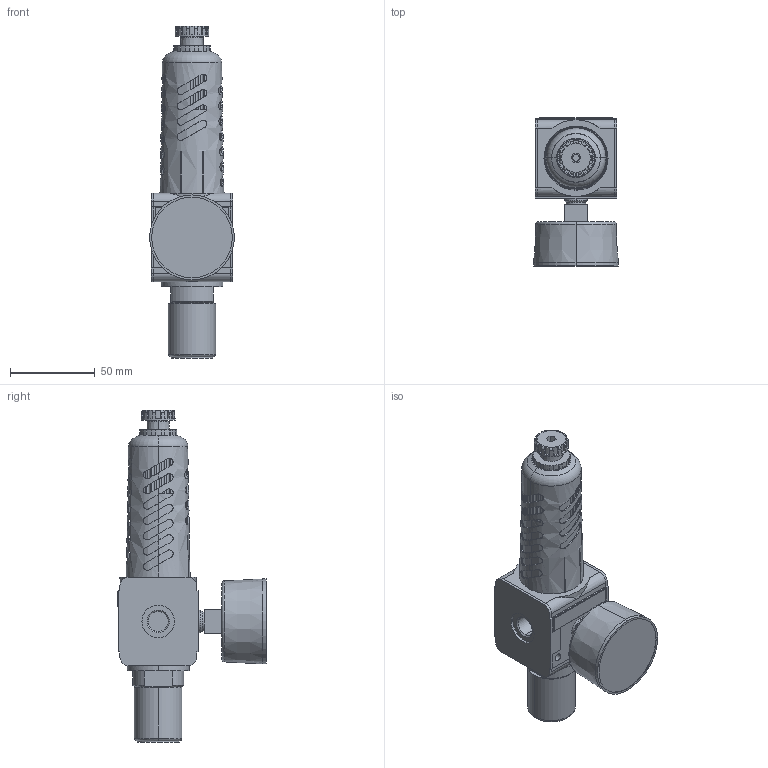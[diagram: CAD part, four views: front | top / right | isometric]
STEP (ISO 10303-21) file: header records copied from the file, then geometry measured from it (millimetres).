
FILE_DESCRIPTION((''),'2;1');
FILE_NAME('0821300301_ASM','2019-02-25T',('PDH2HC'),(''),'CREO PARAMETRIC BY PTC INC, 2016260','CREO PARAMETRIC BY PTC INC, 2016260','');
FILE_SCHEMA(('CONFIG_CONTROL_DESIGN'));
Length unit declared in the file: millimetre
Products named in the file (6): 0821300301-A; 0821300301-B; 1827231010; 0821300301-D; 0821300301-C; 0821300301_ASM
Assembly tree (6 placements, depth 2):
  0821300301_ASM
    0821300301-A
    0821300301-B
    1827231010
    0821300301-D
    0821300301-C  x2
Bounding box: 50 x 87.2 x 195.5 mm (x, y, z)
Volume: 270721.2 mm3; surface area: 67128.8 mm2
Topology: 6 solids, 6 shells, 475 faces, 1381 edges, 909 vertices
Faces by surface type: plane 278, cylinder 153, cone 32, torus 12
Entity records: 20059 total; most frequent: CARTESIAN_POINT 8296, ORIENTED_EDGE 2606, DIRECTION 2238, EDGE_CURVE 1303, VERTEX_POINT 857, AXIS2_PLACEMENT_3D 814, VECTOR 610, LINE 610
